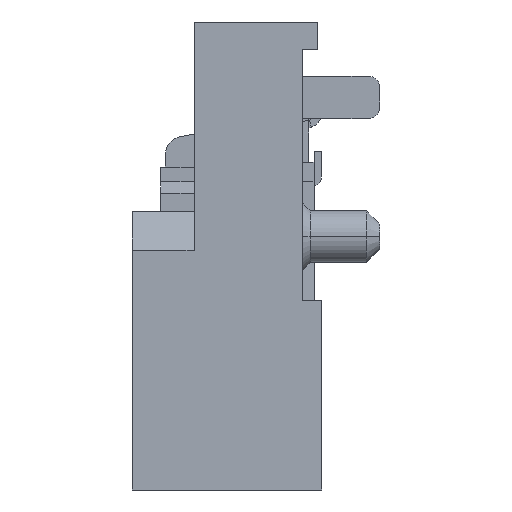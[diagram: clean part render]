
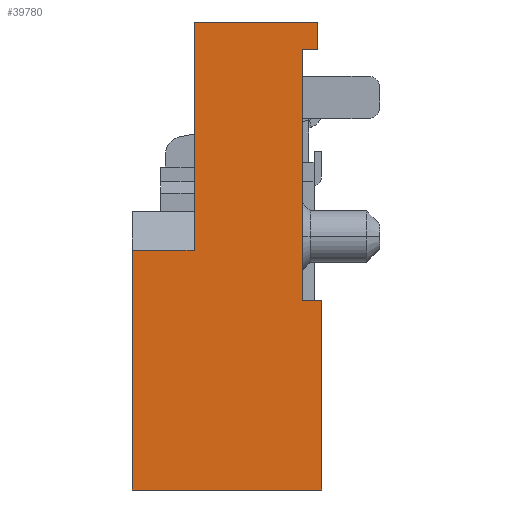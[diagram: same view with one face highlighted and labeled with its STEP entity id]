
A CAD part, left-side view. The second image highlights one B-rep face of the part: STEP entity #39780.
In plain terms, the highlighted planar face has unit normal (-1, 0, 0).
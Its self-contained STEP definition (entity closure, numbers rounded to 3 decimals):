
#9078=DIRECTION('',(0.,0.,1.));
#9079=VECTOR('',#9078,0.7);
#9080=CARTESIAN_POINT('',(3.62,1.7,-3.6));
#9081=LINE('',#9080,#9079);
#9094=DIRECTION('',(0.,-1.,0.));
#9095=VECTOR('',#9094,0.4);
#9096=CARTESIAN_POINT('',(3.62,2.1,-3.6));
#9097=LINE('',#9096,#9095);
#9114=DIRECTION('',(0.,0.,-1.));
#9115=VECTOR('',#9114,6.5);
#9116=CARTESIAN_POINT('',(3.62,2.1,-3.6));
#9117=LINE('',#9116,#9115);
#9118=DIRECTION('',(0.,-1.,0.));
#9119=VECTOR('',#9118,0.5);
#9120=CARTESIAN_POINT('',(3.62,2.1,-10.1));
#9121=LINE('',#9120,#9119);
#9122=DIRECTION('',(0.,1.,0.));
#9123=VECTOR('',#9122,4.9);
#9124=CARTESIAN_POINT('',(3.62,1.6,-15.));
#9125=LINE('',#9124,#9123);
#9126=DIRECTION('',(0.,0.,1.));
#9127=VECTOR('',#9126,6.2);
#9128=CARTESIAN_POINT('',(3.62,6.5,-15.));
#9129=LINE('',#9128,#9127);
#9130=DIRECTION('',(0.,-1.,0.));
#9131=VECTOR('',#9130,1.6);
#9132=CARTESIAN_POINT('',(3.62,6.5,-8.8));
#9133=LINE('',#9132,#9131);
#9134=DIRECTION('',(0.,-1.,0.));
#9135=VECTOR('',#9134,3.2);
#9136=CARTESIAN_POINT('',(3.62,4.9,-2.9));
#9137=LINE('',#9136,#9135);
#9154=DIRECTION('',(0.,0.,1.));
#9155=VECTOR('',#9154,4.9);
#9156=CARTESIAN_POINT('',(3.62,1.6,-15.));
#9157=LINE('',#9156,#9155);
#9178=DIRECTION('',(0.,0.,-1.));
#9179=VECTOR('',#9178,5.9);
#9180=CARTESIAN_POINT('',(3.62,4.9,-2.9));
#9181=LINE('',#9180,#9179);
#25135=CARTESIAN_POINT('',(3.62,2.1,-10.1));
#25136=VERTEX_POINT('',#25135);
#25137=CARTESIAN_POINT('',(3.62,2.1,-3.6));
#25138=VERTEX_POINT('',#25137);
#25249=CARTESIAN_POINT('',(3.62,6.5,-15.));
#25250=VERTEX_POINT('',#25249);
#25251=CARTESIAN_POINT('',(3.62,1.6,-15.));
#25252=VERTEX_POINT('',#25251);
#25303=CARTESIAN_POINT('',(3.62,6.5,-8.8));
#25304=VERTEX_POINT('',#25303);
#25427=CARTESIAN_POINT('',(3.62,4.9,-2.9));
#25428=VERTEX_POINT('',#25427);
#25429=CARTESIAN_POINT('',(3.62,4.9,-8.8));
#25430=VERTEX_POINT('',#25429);
#25560=CARTESIAN_POINT('',(3.62,1.7,-2.9));
#25562=VERTEX_POINT('',#25560);
#25563=CARTESIAN_POINT('',(3.62,1.7,-3.6));
#25565=VERTEX_POINT('',#25563);
#25569=CARTESIAN_POINT('',(3.62,1.6,-10.1));
#25570=VERTEX_POINT('',#25569);
#39759=CARTESIAN_POINT('',(3.62,1.6,-15.));
#39760=DIRECTION('',(-1.,0.,0.));
#39761=DIRECTION('',(0.,0.,1.));
#39762=AXIS2_PLACEMENT_3D('',#39759,#39760,#39761);
#39763=PLANE('',#39762);
#39764=ORIENTED_EDGE('',*,*,#37532,.T.);
#39766=ORIENTED_EDGE('',*,*,#39765,.T.);
#39768=ORIENTED_EDGE('',*,*,#39767,.F.);
#39769=ORIENTED_EDGE('',*,*,#37798,.T.);
#39770=ORIENTED_EDGE('',*,*,#38177,.T.);
#39772=ORIENTED_EDGE('',*,*,#39771,.T.);
#39774=ORIENTED_EDGE('',*,*,#39773,.F.);
#39775=ORIENTED_EDGE('',*,*,#39690,.T.);
#39776=ORIENTED_EDGE('',*,*,#39710,.F.);
#39777=ORIENTED_EDGE('',*,*,#39729,.F.);
#39778=EDGE_LOOP('',(#39764,#39766,#39768,#39769,#39770,#39772,#39774,#39775,
#39776,#39777));
#39779=FACE_OUTER_BOUND('',#39778,.F.);
#37532=EDGE_CURVE('',#25138,#25136,#9117,.T.);
#37798=EDGE_CURVE('',#25252,#25250,#9125,.T.);
#38177=EDGE_CURVE('',#25250,#25304,#9129,.T.);
#39690=EDGE_CURVE('',#25428,#25562,#9137,.T.);
#39710=EDGE_CURVE('',#25565,#25562,#9081,.T.);
#39729=EDGE_CURVE('',#25138,#25565,#9097,.T.);
#39765=EDGE_CURVE('',#25136,#25570,#9121,.T.);
#39767=EDGE_CURVE('',#25252,#25570,#9157,.T.);
#39771=EDGE_CURVE('',#25304,#25430,#9133,.T.);
#39773=EDGE_CURVE('',#25428,#25430,#9181,.T.);
#39780=ADVANCED_FACE('',(#39779),#39763,.T.);
